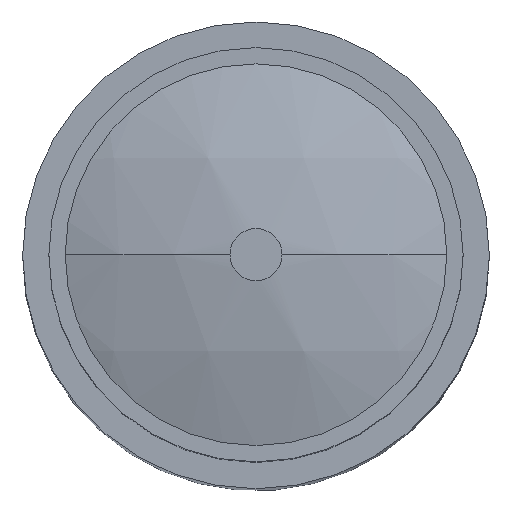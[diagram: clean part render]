
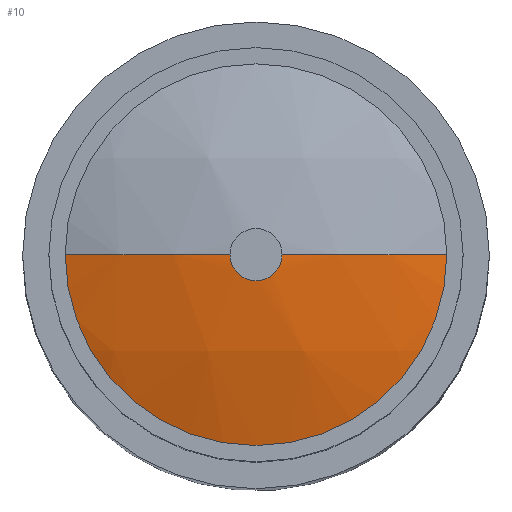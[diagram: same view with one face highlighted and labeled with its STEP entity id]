
A CAD part, top view. The second image highlights one B-rep face of the part: STEP entity #10.
In plain terms, the highlighted spherical face has radius 10 mm.
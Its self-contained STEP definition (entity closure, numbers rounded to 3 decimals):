
#4 = ORIENTED_EDGE ( 'NONE', *, *, #5, .T. ) ;
#5 = EDGE_CURVE ( 'NONE', #450, #458, #165, .T. ) ;
#10 = ADVANCED_FACE ( 'NONE', ( #112 ), #169, .T. ) ;
#11 = EDGE_LOOP ( 'NONE', ( #12, #13, #15, #4 ) ) ;
#12 = ORIENTED_EDGE ( 'NONE', *, *, #457, .F. ) ;
#13 = ORIENTED_EDGE ( 'NONE', *, *, #14, .T. ) ;
#14 = EDGE_CURVE ( 'NONE', #455, #454, #50, .T. ) ;
#15 = ORIENTED_EDGE ( 'NONE', *, *, #452, .T. ) ;
#44 = DIRECTION ( 'NONE',  ( 0., 1., 0. ) ) ;
#49 = CARTESIAN_POINT ( 'NONE',  ( -26.56, 0., 0. ) ) ;
#50 = CIRCLE ( 'NONE', #145, 3.271 ) ;
#51 = DIRECTION ( 'NONE',  ( 0., 0., 1. ) ) ;
#52 = AXIS2_PLACEMENT_3D ( 'NONE', #168, #44, #51 ) ;
#73 = CARTESIAN_POINT ( 'NONE',  ( -17.11, 0., 0. ) ) ;
#75 = DIRECTION ( 'NONE',  ( 0., -1., 0. ) ) ;
#105 = DIRECTION ( 'NONE',  ( 0., 0., -1. ) ) ;
#106 = DIRECTION ( 'NONE',  ( 1., 0., 0. ) ) ;
#107 = AXIS2_PLACEMENT_3D ( 'NONE', #164, #106, #105 ) ;
#112 = FACE_OUTER_BOUND ( 'NONE', #11, .T. ) ;
#143 = DIRECTION ( 'NONE',  ( 0., 0., 1. ) ) ;
#144 = DIRECTION ( 'NONE',  ( -1., 0., 0. ) ) ;
#145 = AXIS2_PLACEMENT_3D ( 'NONE', #49, #144, #143 ) ;
#164 = CARTESIAN_POINT ( 'NONE',  ( -27.1, 0., 0. ) ) ;
#165 = CIRCLE ( 'NONE', #107, 0.447 ) ;
#168 = CARTESIAN_POINT ( 'NONE',  ( -17.11, 0., 0. ) ) ;
#169 = SPHERICAL_SURFACE ( 'NONE', #52, 10. ) ;
#196 = AXIS2_PLACEMENT_3D ( 'NONE', #73, #75, #223 ) ;
#197 = CIRCLE ( 'NONE', #196, 10. ) ;
#200 = CARTESIAN_POINT ( 'NONE',  ( -27.1, 0., 0.447 ) ) ;
#223 = DIRECTION ( 'NONE',  ( 0., 0., -1. ) ) ;
#233 = DIRECTION ( 'NONE',  ( 0., 0., 1. ) ) ;
#234 = DIRECTION ( 'NONE',  ( 0., 1., 0. ) ) ;
#235 = CARTESIAN_POINT ( 'NONE',  ( -17.11, 0., 0. ) ) ;
#236 = AXIS2_PLACEMENT_3D ( 'NONE', #235, #234, #233 ) ;
#237 = CIRCLE ( 'NONE', #236, 10. ) ;
#261 = CARTESIAN_POINT ( 'NONE',  ( -26.56, 0., 3.271 ) ) ;
#262 = CARTESIAN_POINT ( 'NONE',  ( -27.1, 0., -0.447 ) ) ;
#263 = CARTESIAN_POINT ( 'NONE',  ( -26.56, 0., -3.271 ) ) ;
#450 = VERTEX_POINT ( 'NONE', #200 ) ;
#452 = EDGE_CURVE ( 'NONE', #454, #450, #197, .T. ) ;
#454 = VERTEX_POINT ( 'NONE', #261 ) ;
#455 = VERTEX_POINT ( 'NONE', #263 ) ;
#457 = EDGE_CURVE ( 'NONE', #455, #458, #237, .T. ) ;
#458 = VERTEX_POINT ( 'NONE', #262 ) ;
